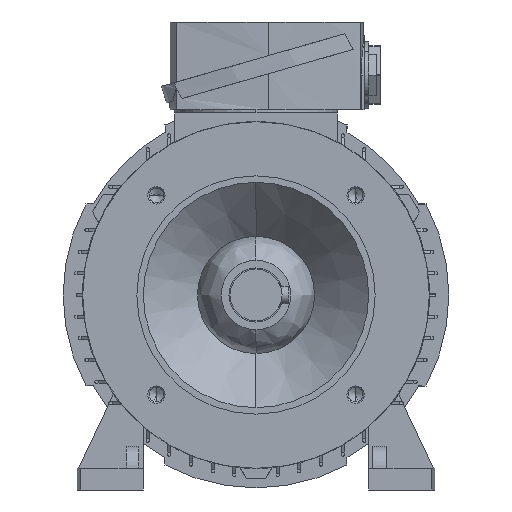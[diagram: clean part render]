
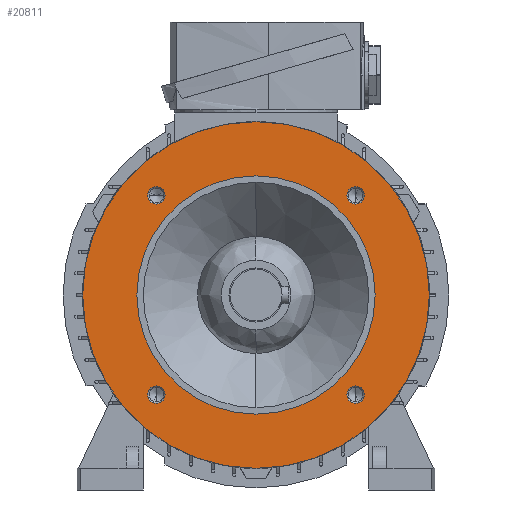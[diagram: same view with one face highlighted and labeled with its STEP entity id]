
A CAD part, left-side view. The second image highlights one B-rep face of the part: STEP entity #20811.
In plain terms, the highlighted planar face has unit normal (-1, 0, 0).
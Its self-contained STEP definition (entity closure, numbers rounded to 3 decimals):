
#1024 = PLANE ( 'NONE',  #23285 ) ;
#1026 = DIRECTION ( 'NONE',  ( -1., 0., 0. ) ) ;
#1031 = CARTESIAN_POINT ( 'NONE',  ( -34.5, 0., 67.5 ) ) ;
#1032 = DIRECTION ( 'NONE',  ( 0., 0., 1. ) ) ;
#2049 = CARTESIAN_POINT ( 'NONE',  ( -34.5, 0., -80. ) ) ;
#2065 = CARTESIAN_POINT ( 'NONE',  ( -34.5, 0., 80. ) ) ;
#2093 = VERTEX_POINT ( 'NONE', #21191 ) ;
#2099 = VERTEX_POINT ( 'NONE', #21133 ) ;
#2200 = CARTESIAN_POINT ( 'NONE',  ( -34.5, 0., -55. ) ) ;
#2201 = CARTESIAN_POINT ( 'NONE',  ( -34.5, 0., 55. ) ) ;
#2209 = CARTESIAN_POINT ( 'NONE',  ( -34.5, -45.962, 49.962 ) ) ;
#2211 = CARTESIAN_POINT ( 'NONE',  ( -34.5, -45.962, 41.962 ) ) ;
#2214 = CARTESIAN_POINT ( 'NONE',  ( -34.5, 45.962, 49.962 ) ) ;
#2215 = CARTESIAN_POINT ( 'NONE',  ( -34.5, 45.962, 41.962 ) ) ;
#2218 = CARTESIAN_POINT ( 'NONE',  ( -34.5, 45.962, -41.962 ) ) ;
#2219 = CARTESIAN_POINT ( 'NONE',  ( -34.5, 45.962, -49.962 ) ) ;
#3317 = CIRCLE ( 'NONE', #24811, 80. ) ;
#4815 = FACE_BOUND ( 'NONE', #14320, .T. ) ;
#4817 = FACE_BOUND ( 'NONE', #14322, .T. ) ;
#4818 = FACE_BOUND ( 'NONE', #14330, .T. ) ;
#4820 = FACE_BOUND ( 'NONE', #14319, .T. ) ;
#4821 = FACE_OUTER_BOUND ( 'NONE', #14334, .T. ) ;
#4822 = FACE_BOUND ( 'NONE', #14333, .T. ) ;
#5105 = CIRCLE ( 'NONE', #23454, 80. ) ;
#6074 = CIRCLE ( 'NONE', #23556, 4. ) ;
#6082 = CIRCLE ( 'NONE', #23555, 4. ) ;
#6086 = CIRCLE ( 'NONE', #23557, 4. ) ;
#6088 = CIRCLE ( 'NONE', #23558, 4. ) ;
#6090 = CIRCLE ( 'NONE', #23559, 55. ) ;
#6241 = CIRCLE ( 'NONE', #23565, 4. ) ;
#6245 = CIRCLE ( 'NONE', #23567, 4. ) ;
#6251 = CIRCLE ( 'NONE', #23569, 4. ) ;
#6257 = CIRCLE ( 'NONE', #23571, 4. ) ;
#6269 = CIRCLE ( 'NONE', #23574, 55. ) ;
#7325 = CARTESIAN_POINT ( 'NONE',  ( -34.5, -45.962, -45.962 ) ) ;
#7326 = DIRECTION ( 'NONE',  ( 1., 0., 0. ) ) ;
#7327 = DIRECTION ( 'NONE',  ( 0., 0., 1. ) ) ;
#7328 = CARTESIAN_POINT ( 'NONE',  ( -34.5, 45.962, -45.962 ) ) ;
#7329 = DIRECTION ( 'NONE',  ( 1., 0., 0. ) ) ;
#7330 = DIRECTION ( 'NONE',  ( 0., 0., 1. ) ) ;
#7331 = CARTESIAN_POINT ( 'NONE',  ( -34.5, 45.962, 45.962 ) ) ;
#7332 = DIRECTION ( 'NONE',  ( 1., 0., 0. ) ) ;
#7333 = DIRECTION ( 'NONE',  ( 0., 0., 1. ) ) ;
#7334 = CARTESIAN_POINT ( 'NONE',  ( -34.5, -45.962, 45.962 ) ) ;
#7335 = DIRECTION ( 'NONE',  ( 1., 0., 0. ) ) ;
#7336 = DIRECTION ( 'NONE',  ( 0., 0., 1. ) ) ;
#7339 = CARTESIAN_POINT ( 'NONE',  ( -34.5, 0., 0. ) ) ;
#7340 = DIRECTION ( 'NONE',  ( 1., 0., 0. ) ) ;
#7341 = DIRECTION ( 'NONE',  ( 0., 0., 1. ) ) ;
#7492 = CARTESIAN_POINT ( 'NONE',  ( -34.5, -45.962, -45.962 ) ) ;
#7493 = DIRECTION ( 'NONE',  ( 1., 0., 0. ) ) ;
#7494 = DIRECTION ( 'NONE',  ( 0., 0., 1. ) ) ;
#7502 = CARTESIAN_POINT ( 'NONE',  ( -34.5, 45.962, -45.962 ) ) ;
#7503 = DIRECTION ( 'NONE',  ( 1., 0., 0. ) ) ;
#7504 = DIRECTION ( 'NONE',  ( 0., 0., 1. ) ) ;
#7512 = CARTESIAN_POINT ( 'NONE',  ( -34.5, 45.962, 45.962 ) ) ;
#7513 = DIRECTION ( 'NONE',  ( 1., 0., 0. ) ) ;
#7514 = DIRECTION ( 'NONE',  ( 0., 0., 1. ) ) ;
#7522 = CARTESIAN_POINT ( 'NONE',  ( -34.5, -45.962, 45.962 ) ) ;
#7523 = DIRECTION ( 'NONE',  ( 1., 0., 0. ) ) ;
#7524 = DIRECTION ( 'NONE',  ( 0., 0., 1. ) ) ;
#7539 = CARTESIAN_POINT ( 'NONE',  ( -34.5, 0., 0. ) ) ;
#7540 = DIRECTION ( 'NONE',  ( 1., 0., 0. ) ) ;
#7541 = DIRECTION ( 'NONE',  ( 0., 0., 1. ) ) ;
#9321 = ORIENTED_EDGE ( 'NONE', *, *, #23153, .T. ) ;
#9323 = ORIENTED_EDGE ( 'NONE', *, *, #23244, .T. ) ;
#9324 = ORIENTED_EDGE ( 'NONE', *, *, #10207, .F. ) ;
#9326 = ORIENTED_EDGE ( 'NONE', *, *, #21612, .F. ) ;
#9328 = ORIENTED_EDGE ( 'NONE', *, *, #23238, .T. ) ;
#9330 = ORIENTED_EDGE ( 'NONE', *, *, #23152, .T. ) ;
#9331 = ORIENTED_EDGE ( 'NONE', *, *, #23234, .T. ) ;
#9333 = ORIENTED_EDGE ( 'NONE', *, *, #23151, .T. ) ;
#9335 = ORIENTED_EDGE ( 'NONE', *, *, #23230, .T. ) ;
#9337 = ORIENTED_EDGE ( 'NONE', *, *, #23150, .T. ) ;
#9339 = ORIENTED_EDGE ( 'NONE', *, *, #23226, .T. ) ;
#9340 = ORIENTED_EDGE ( 'NONE', *, *, #23149, .T. ) ;
#10207 = EDGE_CURVE ( 'NONE', #17493, #17509, #3317, .T. ) ;
#14319 = EDGE_LOOP ( 'NONE', ( #9331, #9333 ) ) ;
#14320 = EDGE_LOOP ( 'NONE', ( #9335, #9337 ) ) ;
#14322 = EDGE_LOOP ( 'NONE', ( #9321, #9323 ) ) ;
#14330 = EDGE_LOOP ( 'NONE', ( #9328, #9330 ) ) ;
#14333 = EDGE_LOOP ( 'NONE', ( #9339, #9340 ) ) ;
#14334 = EDGE_LOOP ( 'NONE', ( #9324, #9326 ) ) ;
#17493 = VERTEX_POINT ( 'NONE', #2049 ) ;
#17509 = VERTEX_POINT ( 'NONE', #2065 ) ;
#19109 = CARTESIAN_POINT ( 'NONE',  ( -34.5, 0., 0. ) ) ;
#19110 = DIRECTION ( 'NONE',  ( 1., 0., 0. ) ) ;
#19111 = DIRECTION ( 'NONE',  ( 0., 0., -1. ) ) ;
#20153 = VERTEX_POINT ( 'NONE', #2200 ) ;
#20154 = VERTEX_POINT ( 'NONE', #2201 ) ;
#20162 = VERTEX_POINT ( 'NONE', #2209 ) ;
#20164 = VERTEX_POINT ( 'NONE', #2211 ) ;
#20167 = VERTEX_POINT ( 'NONE', #2214 ) ;
#20168 = VERTEX_POINT ( 'NONE', #2215 ) ;
#20171 = VERTEX_POINT ( 'NONE', #2218 ) ;
#20172 = VERTEX_POINT ( 'NONE', #2219 ) ;
#20811 = ADVANCED_FACE ( 'NONE', ( #4817, #4821, #4818, #4820, #4815, #4822 ), #1024, .T. ) ;
#21133 = CARTESIAN_POINT ( 'NONE',  ( -34.5, -45.962, -49.962 ) ) ;
#21191 = CARTESIAN_POINT ( 'NONE',  ( -34.5, -45.962, -41.962 ) ) ;
#21612 = EDGE_CURVE ( 'NONE', #17509, #17493, #5105, .T. ) ;
#23149 = EDGE_CURVE ( 'NONE', #2099, #2093, #6082, .T. ) ;
#23150 = EDGE_CURVE ( 'NONE', #20172, #20171, #6074, .T. ) ;
#23151 = EDGE_CURVE ( 'NONE', #20168, #20167, #6086, .T. ) ;
#23152 = EDGE_CURVE ( 'NONE', #20164, #20162, #6088, .T. ) ;
#23153 = EDGE_CURVE ( 'NONE', #20154, #20153, #6090, .T. ) ;
#23226 = EDGE_CURVE ( 'NONE', #2093, #2099, #6241, .T. ) ;
#23230 = EDGE_CURVE ( 'NONE', #20171, #20172, #6245, .T. ) ;
#23234 = EDGE_CURVE ( 'NONE', #20167, #20168, #6251, .T. ) ;
#23238 = EDGE_CURVE ( 'NONE', #20162, #20164, #6257, .T. ) ;
#23244 = EDGE_CURVE ( 'NONE', #20153, #20154, #6269, .T. ) ;
#23285 = AXIS2_PLACEMENT_3D ( 'NONE', #1031, #1026, #1032 ) ;
#23454 = AXIS2_PLACEMENT_3D ( 'NONE', #19109, #19110, #19111 ) ;
#23555 = AXIS2_PLACEMENT_3D ( 'NONE', #7325, #7326, #7327 ) ;
#23556 = AXIS2_PLACEMENT_3D ( 'NONE', #7328, #7329, #7330 ) ;
#23557 = AXIS2_PLACEMENT_3D ( 'NONE', #7331, #7332, #7333 ) ;
#23558 = AXIS2_PLACEMENT_3D ( 'NONE', #7334, #7335, #7336 ) ;
#23559 = AXIS2_PLACEMENT_3D ( 'NONE', #7339, #7340, #7341 ) ;
#23565 = AXIS2_PLACEMENT_3D ( 'NONE', #7492, #7493, #7494 ) ;
#23567 = AXIS2_PLACEMENT_3D ( 'NONE', #7502, #7503, #7504 ) ;
#23569 = AXIS2_PLACEMENT_3D ( 'NONE', #7512, #7513, #7514 ) ;
#23571 = AXIS2_PLACEMENT_3D ( 'NONE', #7522, #7523, #7524 ) ;
#23574 = AXIS2_PLACEMENT_3D ( 'NONE', #7539, #7540, #7541 ) ;
#24811 = AXIS2_PLACEMENT_3D ( 'NONE', #25444, #25445, #25446 ) ;
#25444 = CARTESIAN_POINT ( 'NONE',  ( -34.5, 0., 0. ) ) ;
#25445 = DIRECTION ( 'NONE',  ( 1., 0., 0. ) ) ;
#25446 = DIRECTION ( 'NONE',  ( 0., 0., -1. ) ) ;
